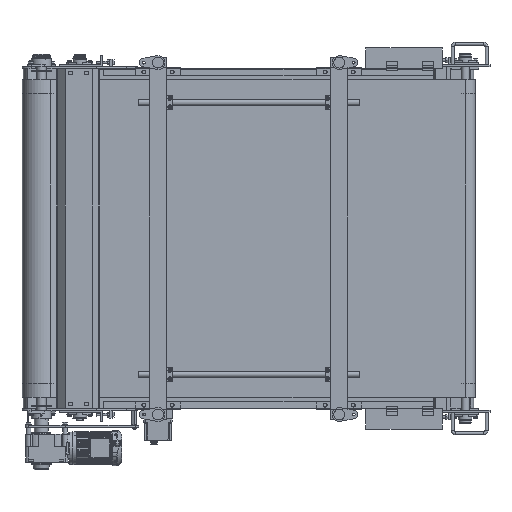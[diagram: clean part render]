
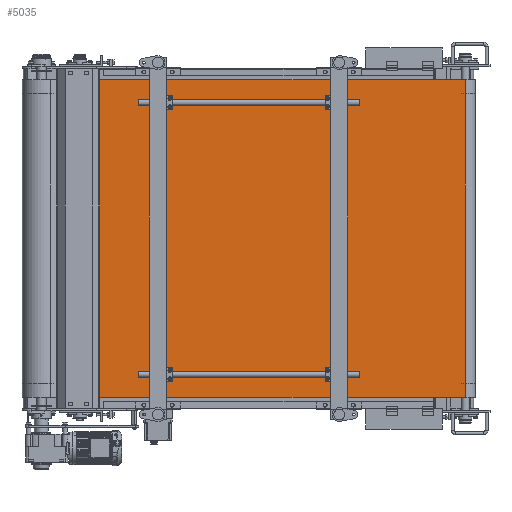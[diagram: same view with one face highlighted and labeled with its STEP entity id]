
A CAD part, front view. The second image highlights one B-rep face of the part: STEP entity #5035.
In plain terms, the highlighted planar face has unit normal (-0.001, -1, 0).
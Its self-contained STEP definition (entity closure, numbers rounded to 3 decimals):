
#5035=ADVANCED_FACE('',(#22553),#22552,.F.);
#22552=PLANE('',#51317);
#22553=FACE_OUTER_BOUND('',#51318,.T.);
#51314=CARTESIAN_POINT('',(245.031,-87.342,710.));
#51315=DIRECTION('',(0.001,1.,0.));
#51316=DIRECTION('',(1.,-0.001,0.));
#51317=AXIS2_PLACEMENT_3D('',#51314,#51315,#51316);
#51318=EDGE_LOOP('',(#73079,#73080,#73081,#73082));
#73079=ORIENTED_EDGE('',*,*,#86219,.T.);
#73080=ORIENTED_EDGE('',*,*,#86234,.F.);
#73081=ORIENTED_EDGE('',*,*,#86203,.F.);
#73082=ORIENTED_EDGE('',*,*,#86235,.T.);
#86203=EDGE_CURVE('',#118686,#118693,#118694,.T.);
#86219=EDGE_CURVE('',#118770,#118798,#118805,.T.);
#86234=EDGE_CURVE('',#118693,#118798,#118904,.T.);
#86235=EDGE_CURVE('',#118686,#118770,#118910,.T.);
#118686=VERTEX_POINT('',#169820);
#118693=VERTEX_POINT('',#169825);
#118694=LINE('',#169826,#169827);
#118770=VERTEX_POINT('',#169874);
#118798=VERTEX_POINT('',#169892);
#118805=LINE('',#169897,#169898);
#118904=LINE('',#169954,#169955);
#118910=LINE('',#169957,#169958);
#169820=CARTESIAN_POINT('',(1955.412,-88.75,-700.));
#169825=CARTESIAN_POINT('',(255.031,-87.35,-700.));
#169826=CARTESIAN_POINT('',(1955.412,-88.75,-700.));
#169827=VECTOR('',#169828,1700.381);
#169828=DIRECTION('',(-1.,0.001,0.));
#169874=CARTESIAN_POINT('',(1955.412,-88.75,700.));
#169892=CARTESIAN_POINT('',(255.031,-87.35,700.));
#169897=CARTESIAN_POINT('',(1955.412,-88.75,700.));
#169898=VECTOR('',#169899,1700.381);
#169899=DIRECTION('',(-1.,0.001,0.));
#169954=CARTESIAN_POINT('',(255.031,-87.35,-700.));
#169955=VECTOR('',#169956,1400.);
#169956=DIRECTION('',(0.,0.,1.));
#169957=CARTESIAN_POINT('',(1955.412,-88.75,-700.));
#169958=VECTOR('',#169959,1400.);
#169959=DIRECTION('',(0.,0.,1.));
